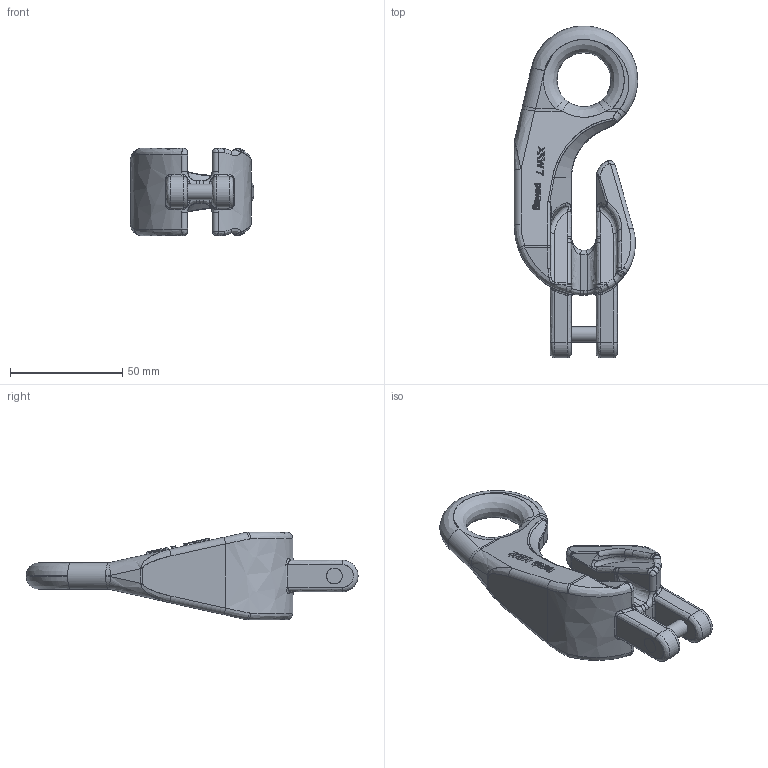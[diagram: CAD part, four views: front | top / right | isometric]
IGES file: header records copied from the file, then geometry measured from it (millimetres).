
Global section: file name: L:\users\SC\3D Kundenmodelle\UG Zg der Ableitung G100\XKW Kundenmodell\XKW 7 Kundenmodell\pewag_XKW_7.igs; native system: NX V4.0; preprocessor: UGS NX IGES V4.0; date: 20100201.095235; units: millimetre
Bounding box: 55 x 148 x 39 mm (x, y, z)
Surface area: 20553.9 mm2 (no closed solid volume)
Topology: 0 solids, 0 shells, 468 faces, 2568 edges, 2548 vertices
Faces by surface type: bspline 468
